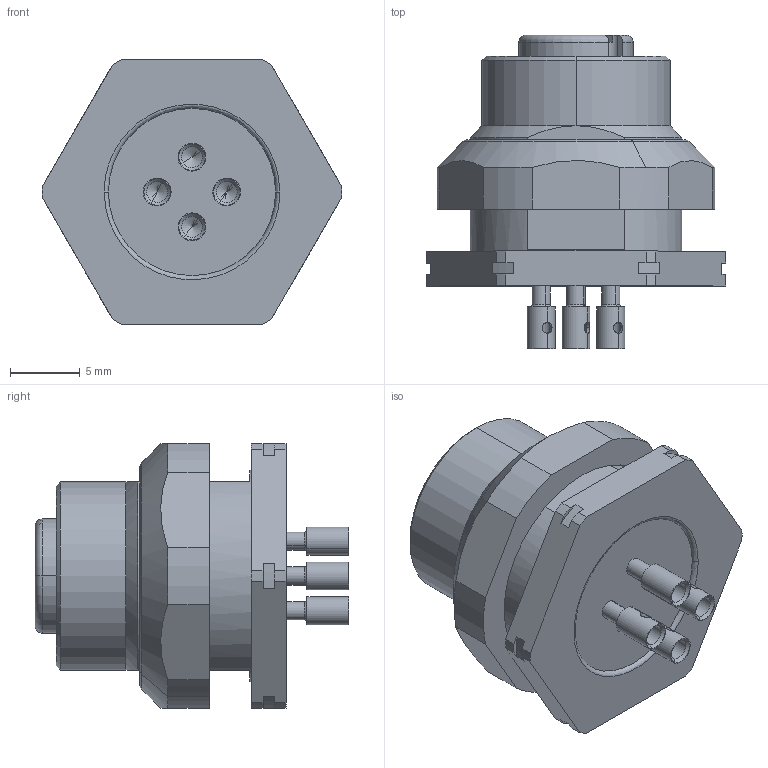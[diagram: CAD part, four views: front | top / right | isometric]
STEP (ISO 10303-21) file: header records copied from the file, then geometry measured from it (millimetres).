
FILE_DESCRIPTION (( 'STEP AP203' ), '1' );
FILE_NAME ('FKFDL_4.step', '2012-11-14T14:03:11', ( 'Turck User' ), ( '' ), 'SwSTEP 2.0', 'SolidWorks 2012', '' );
FILE_SCHEMA (( 'CONFIG_CONTROL_DESIGN' ));
Length unit declared in the file: millimetre
Products named in the file (1): FKFDL_4
Bounding box: 21.5 x 22.5 x 19 mm (x, y, z)
Volume: 3166.2 mm3; surface area: 3116.9 mm2
Topology: 1 solids, 2 shells, 292 faces, 734 edges, 471 vertices
Faces by surface type: cylinder 131, plane 92, cone 28, bspline 26, torus 15
Entity records: 11405 total; most frequent: CARTESIAN_POINT 4340, DIRECTION 1464, ORIENTED_EDGE 1452, EDGE_CURVE 726, AXIS2_PLACEMENT_3D 573, VERTEX_POINT 471, EDGE_LOOP 339, LINE 318
